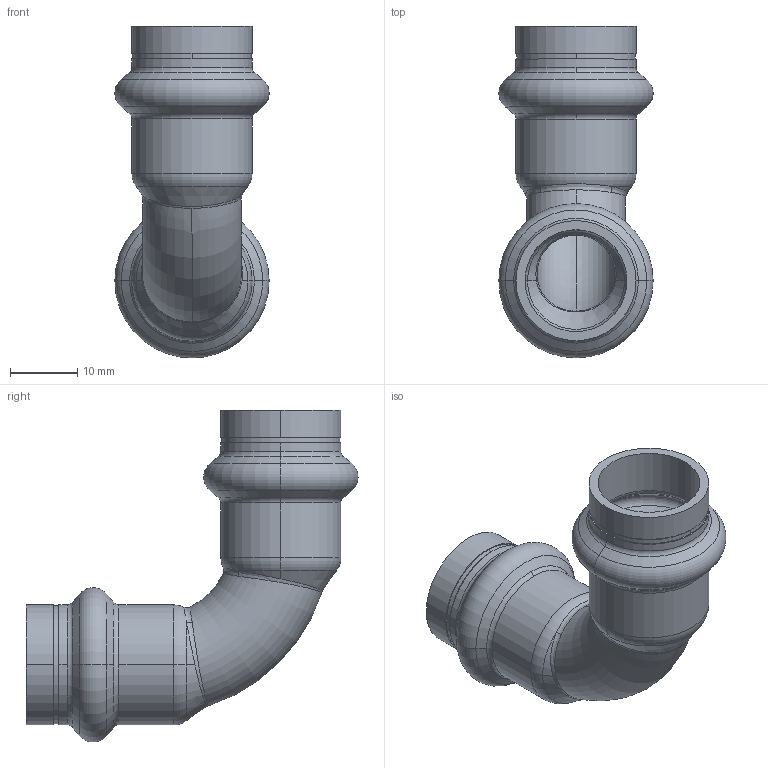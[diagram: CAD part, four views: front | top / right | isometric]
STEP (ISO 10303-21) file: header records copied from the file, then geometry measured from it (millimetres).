
FILE_DESCRIPTION (( 'STEP AP203' ), '1' );
FILE_NAME ('SP5002 Ø15.STEP', '2017-04-24T08:01:53', ( '' ), ( '' ), 'SwSTEP 2.0', 'SolidWorks 2016', '' );
FILE_SCHEMA (( 'CONFIG_CONTROL_DESIGN' ));
Length unit declared in the file: millimetre
Products named in the file (1): SP5002 ﾘ15
Bounding box: 23 x 49.5 x 49.5 mm (x, y, z)
Volume: 5178 mm3; surface area: 7620.6 mm2
Topology: 1 solids, 1 shells, 100 faces, 230 edges, 136 vertices
Faces by surface type: torus 36, cone 26, cylinder 24, bspline 8, plane 6
Entity records: 4474 total; most frequent: CARTESIAN_POINT 2108, DIRECTION 534, ORIENTED_EDGE 460, AXIS2_PLACEMENT_3D 243, EDGE_CURVE 230, CIRCLE 150, VERTEX_POINT 136, EDGE_LOOP 106
